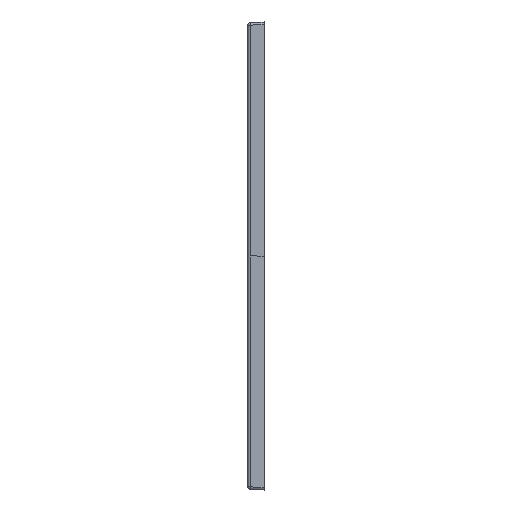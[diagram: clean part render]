
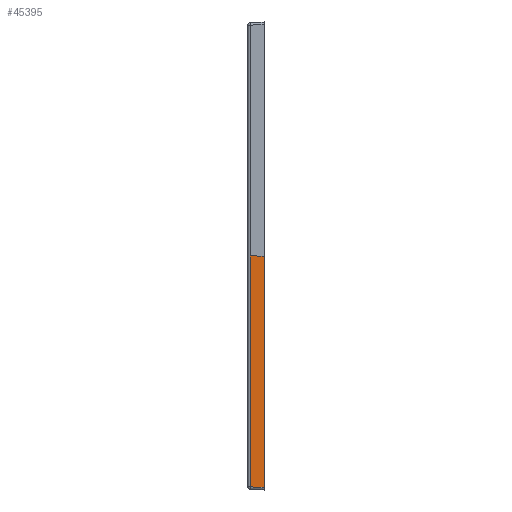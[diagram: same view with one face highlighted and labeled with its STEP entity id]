
A CAD part, left-side view. The second image highlights one B-rep face of the part: STEP entity #45395.
In plain terms, the highlighted free-form (B-spline) face has degree [5, 1] with [6, 2] control points.
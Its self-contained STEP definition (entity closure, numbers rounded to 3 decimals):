
#45326=CARTESIAN_POINT('Vertex',(-700.,0.,-445.003)) ;
#45329=CARTESIAN_POINT('Line Origine',(-699.45,15.75,-444.453)) ;
#45333=CARTESIAN_POINT('Vertex',(-699.069,26.674,-444.072)) ;
#45349=CARTESIAN_POINT('Control Point',(-696.51,99.939,-450.)) ;
#45350=CARTESIAN_POINT('Control Point',(-700.,0.,-450.)) ;
#45351=CARTESIAN_POINT('Control Point',(-696.51,99.939,-270.)) ;
#45352=CARTESIAN_POINT('Control Point',(-700.,0.,-270.)) ;
#45353=CARTESIAN_POINT('Control Point',(-696.51,99.939,-90.)) ;
#45354=CARTESIAN_POINT('Control Point',(-700.,0.,-90.)) ;
#45355=CARTESIAN_POINT('Control Point',(-696.51,99.939,90.)) ;
#45356=CARTESIAN_POINT('Control Point',(-700.,0.,90.)) ;
#45357=CARTESIAN_POINT('Control Point',(-696.51,99.939,270.)) ;
#45358=CARTESIAN_POINT('Control Point',(-700.,0.,270.)) ;
#45359=CARTESIAN_POINT('Control Point',(-696.51,99.939,450.)) ;
#45360=CARTESIAN_POINT('Control Point',(-700.,0.,450.)) ;
#45362=CARTESIAN_POINT('Control Point',(-699.069,26.674,-444.072)) ;
#45363=CARTESIAN_POINT('Control Point',(-699.069,26.674,-355.257)) ;
#45364=CARTESIAN_POINT('Control Point',(-699.069,26.674,-266.443)) ;
#45365=CARTESIAN_POINT('Control Point',(-699.069,26.674,-177.629)) ;
#45366=CARTESIAN_POINT('Control Point',(-699.069,26.674,-88.814)) ;
#45367=CARTESIAN_POINT('Control Point',(-699.069,26.674,0.)) ;
#45368=CARTESIAN_POINT('Vertex',(-699.069,26.674,0.)) ;
#45372=CARTESIAN_POINT('Control Point',(-700.,0.,-445.003)) ;
#45373=CARTESIAN_POINT('Control Point',(-700.,0.,-356.002)) ;
#45374=CARTESIAN_POINT('Control Point',(-700.,0.,-267.002)) ;
#45375=CARTESIAN_POINT('Control Point',(-700.,0.,-178.001)) ;
#45376=CARTESIAN_POINT('Control Point',(-700.,0.,-89.001)) ;
#45377=CARTESIAN_POINT('Control Point',(-700.,0.,0.)) ;
#45378=CARTESIAN_POINT('Vertex',(-700.,0.,0.)) ;
#45382=CARTESIAN_POINT('Control Point',(-699.069,26.674,0.)) ;
#45383=CARTESIAN_POINT('Control Point',(-699.255,21.34,0.)) ;
#45384=CARTESIAN_POINT('Control Point',(-699.441,16.005,0.)) ;
#45385=CARTESIAN_POINT('Control Point',(-699.627,10.67,0.)) ;
#45386=CARTESIAN_POINT('Control Point',(-699.814,5.335,0.)) ;
#45387=CARTESIAN_POINT('Control Point',(-700.,0.,0.)) ;
#45330=DIRECTION('Vector Direction',(0.035,0.999,0.035)) ;
#45331=VECTOR('Line Direction',#45330,1.) ;
#45390=ORIENTED_EDGE('',*,*,#45370,.F.) ;
#45391=ORIENTED_EDGE('',*,*,#45335,.T.) ;
#45392=ORIENTED_EDGE('',*,*,#45380,.T.) ;
#45393=ORIENTED_EDGE('',*,*,#45388,.F.) ;
#45395=ADVANCED_FACE('PD 140X90 H3',(#45394),#45348,.F.) ;
#45361=B_SPLINE_CURVE_WITH_KNOTS('',5,(#45362,#45363,#45364,#45365,#45366,#45367),.UNSPECIFIED.,.F.,.U.,(6,6),(5.928,450.),.UNSPECIFIED.) ;
#45371=B_SPLINE_CURVE_WITH_KNOTS('',5,(#45372,#45373,#45374,#45375,#45376,#45377),.UNSPECIFIED.,.F.,.U.,(6,6),(4.997,450.),.UNSPECIFIED.) ;
#45381=B_SPLINE_CURVE_WITH_KNOTS('',5,(#45382,#45383,#45384,#45385,#45386,#45387),.UNSPECIFIED.,.F.,.U.,(6,6),(73.309,100.),.UNSPECIFIED.) ;
#45348=B_SPLINE_SURFACE_WITH_KNOTS('',5,1,((#45349,#45350),(#45351,#45352),(#45353,#45354),(#45355,#45356),(#45357,#45358),(#45359,#45360)),.UNSPECIFIED.,.F.,.F.,.U.,(6,6),(2,2),(0.,900.),(0.,100.),.UNSPECIFIED.) ;
#45335=EDGE_CURVE('',#45334,#45327,#45332,.F.) ;
#45370=EDGE_CURVE('',#45334,#45369,#45361,.T.) ;
#45380=EDGE_CURVE('',#45327,#45379,#45371,.T.) ;
#45388=EDGE_CURVE('',#45369,#45379,#45381,.T.) ;
#45389=EDGE_LOOP('',(#45390,#45391,#45392,#45393)) ;
#45394=FACE_OUTER_BOUND('',#45389,.T.) ;
#45332=LINE('Line',#45329,#45331) ;
#45327=VERTEX_POINT('',#45326) ;
#45334=VERTEX_POINT('',#45333) ;
#45369=VERTEX_POINT('',#45368) ;
#45379=VERTEX_POINT('',#45378) ;
